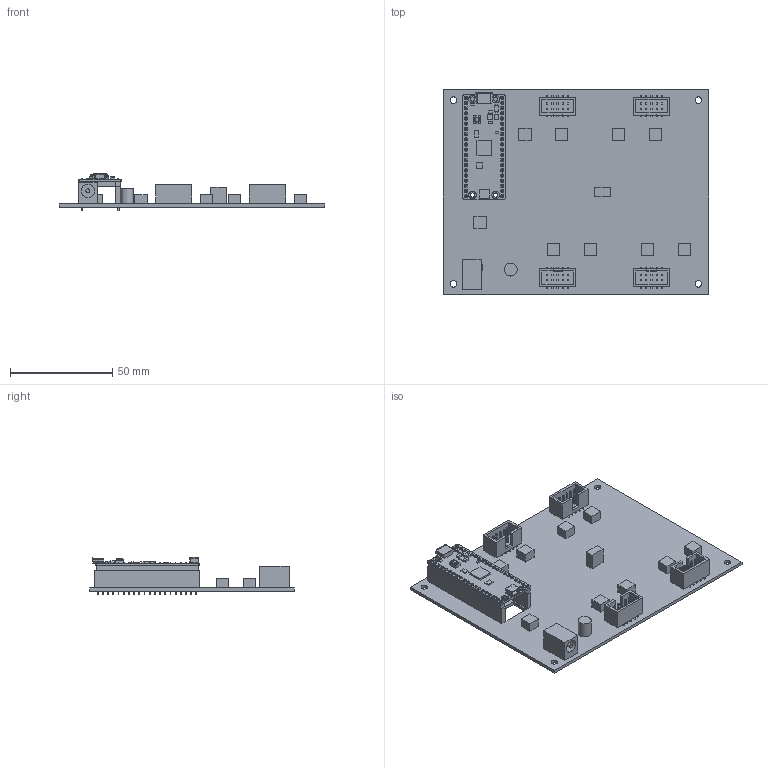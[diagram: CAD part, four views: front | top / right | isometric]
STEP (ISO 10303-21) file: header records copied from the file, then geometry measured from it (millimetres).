
FILE_DESCRIPTION(('Open CASCADE Model'),'2;1');
FILE_NAME('Open CASCADE Shape Model','2026-11-05T16:49:11',('Author'),( 'Open CASCADE'),'Open CASCADE STEP processor 7.9','Open CASCADE 7.9' ,'Unknown');
FILE_SCHEMA(('AUTOMOTIVE_DESIGN { 1 0 10303 214 1 1 1 1 }'));
Length unit declared in the file: millimetre
Products named in the file (26): SDL4-0001_REV_A_mechanical-assembly; PCB_nominal_finished_thickness; J_R1_housing; J_R1_contacts; J_R2_housing; J_R2_contacts; J_R3_housing; J_R3_contacts; J_R4_housing; J_R4_contacts; J_PWR_housing_envelope; J_PWR_centre_pin; J_PICO_socket_body_envelopes; J_PICO_socket_tails; J_PICO_Pico_H_KiCad_model; C1_7p7mm_height_envelope; JP_FANV_header_and_5V_shunt_envelope; L1_envelope; L2_envelope; L3_envelope; L4_envelope; L5_envelope; L6_envelope; L7_envelope; L8_envelope; L9_envelope
Assembly tree (25 placements, depth 2):
  SDL4-0001_REV_A_mechanical-assembly
    PCB_nominal_finished_thickness
    J_R1_housing
    J_R1_contacts
    J_R2_housing
    J_R2_contacts
    J_R3_housing
    J_R3_contacts
    J_R4_housing
    J_R4_contacts
    J_PWR_housing_envelope
    J_PWR_centre_pin
    J_PICO_socket_body_envelopes
    J_PICO_socket_tails
    J_PICO_Pico_H_KiCad_model
    C1_7p7mm_height_envelope
    JP_FANV_header_and_5V_shunt_envelope
    L1_envelope
    L2_envelope
    L3_envelope
    L4_envelope
    L5_envelope
    L6_envelope
    L7_envelope
    L8_envelope
    L9_envelope
Bounding box: 130 x 100 x 18.14 mm (x, y, z)
Volume: 31112 mm3; surface area: 42849.6 mm2
Topology: 142 solids, 142 shells, 1983 faces, 4463 edges, 2960 vertices
Faces by surface type: plane 1836, cylinder 79, bspline 66, torus 2
Full cylindrical faces by diameter (mm): 1 x40, 2 x1, 2.1 x4, 6.3 x1, 6.4 x1
Entity records: 115634 total; most frequent: CARTESIAN_POINT 22198, DIRECTION 16862, LINE 11959, VECTOR 11959, ORIENTED_EDGE 8926, PCURVE 8926, DEFINITIONAL_REPRESENTATION 8926, EDGE_CURVE 4463
